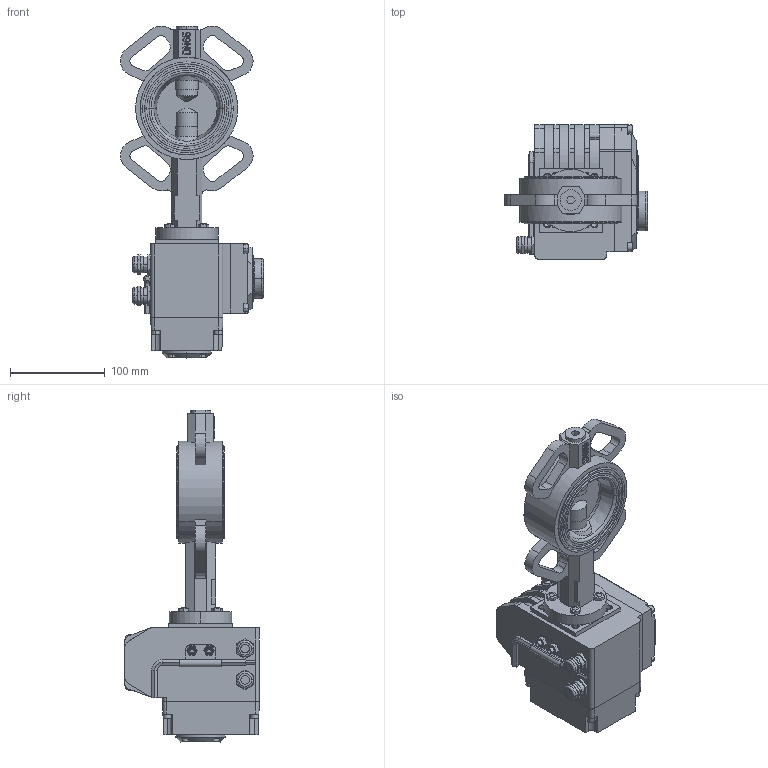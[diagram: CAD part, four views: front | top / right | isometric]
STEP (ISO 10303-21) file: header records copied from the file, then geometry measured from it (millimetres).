
FILE_DESCRIPTION((''),'2;1');
FILE_NAME('VBS_EAR_T_ASM','2025-02-22T',('AMD'),(''),'PRO/ENGINEER BY PARAMETRIC TECHNOLOGY CORPORATION, 2008020','PRO/ENGINEER BY PARAMETRIC TECHNOLOGY CORPORATION, 2008020','');
FILE_SCHEMA(('CONFIG_CONTROL_DESIGN'));
Length unit declared in the file: millimetre
Products named in the file (24): KORPUS; REZ; DISK; SHTIR_1; ZAGLUSHKA; O-RING; SHTIR_2; SHAIBA_RAZREZ; SHAIBA; KOLCO_22_GOST13943; VTULKA; MANZET_REZ; SB_ASM; B-7798-M6-20; DET_1; V-11738-M5; V-11738-M4; DET_2; KREPLENIE; KLUCH; DET_3; G-5915-M6; ELECTROPRIVOD_ASM; VBS_EAR_T_ASM
Assembly tree (43 placements, depth 3):
  VBS_EAR_T_ASM
    SB_ASM
      KORPUS
      REZ
      DISK
      SHTIR_1
      ZAGLUSHKA
      O-RING  x2
      SHTIR_2
      SHAIBA_RAZREZ
      SHAIBA  x2
      KOLCO_22_GOST13943
      VTULKA  x5
      MANZET_REZ
    B-7798-M6-20  x4
    ELECTROPRIVOD_ASM
      DET_1
      V-11738-M5  x8
      V-11738-M4  x4
      DET_2
      KREPLENIE
      KLUCH
      DET_3
      G-5915-M6  x2
Bounding box: 150.98 x 142 x 350.5 mm (x, y, z)
Volume: 1834472.4 mm3; surface area: 316447.9 mm2
Topology: 41 solids, 78 shells, 1625 faces, 4164 edges, 2731 vertices
Faces by surface type: plane 1038, cylinder 451, cone 98, torus 38
Entity records: 42633 total; most frequent: CARTESIAN_POINT 7965, DIRECTION 7248, ORIENTED_EDGE 6928, EDGE_CURVE 3512, VECTOR 2536, LINE 2536, AXIS2_PLACEMENT_3D 2356, VERTEX_POINT 2321
